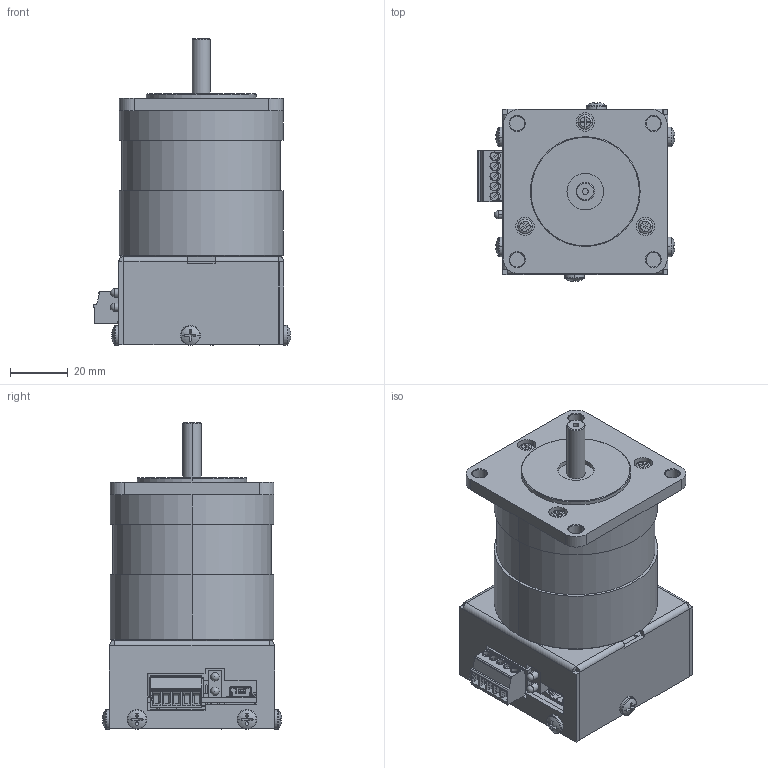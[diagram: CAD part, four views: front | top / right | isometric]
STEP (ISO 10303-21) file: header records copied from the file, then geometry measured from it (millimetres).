
FILE_DESCRIPTION (( 'STEP AP214' ), '1' );
FILE_NAME ('BLWS23MDCUSB2S-24V-4000.STEP', '2016-02-03T00:37:55', ( '' ), ( '' ), 'SwSTEP 2.0', 'SolidWorks 2016', '' );
FILE_SCHEMA (( 'AUTOMOTIVE_DESIGN' ));
Length unit declared in the file: inch
Products named in the file (21): LED-LTM Series_LED-LTM150; RES-3W-JAPSTYLE.25; CON-B5B-EH-A; CAP-0223; AA6550PCB; 55pan cross head_ai_CR-PHMS 0.138-32x0.25x0.25-S; Heat Sink, BLWS23MDCUSB Series; BLWR23MDAUSB Cover; 1840395; BLWS23-BLWR23 Series_BLWS23MDA2; 55pan cross head_ai_CR-PHMS 0.112-40x0.25x0.25-S; 55pan cross head_ai_CR-PHMS 0.112-40x0.3125x0.3125-S; BLWS23MDCUSB2S-24V-4000; TPE-661001001674-1.0X1.125; SUB-AA6550-1; CON-UX60SC-MB-5ST80; UX60SC-MB-5ST; LED-0008; 1844249; TRS-IRFU3607PBF with 90degree bent UP legs; LED-T-1-Series_LED-T-1-GRN
Assembly tree (32 placements, depth 4):
  BLWS23MDCUSB2S-24V-4000
    BLWS23-BLWR23 Series_BLWS23MDA2
    BLWR23MDAUSB Cover
    Heat Sink, BLWS23MDCUSB Series
    55pan cross head_ai_CR-PHMS 0.138-32x0.25x0.25-S  x6
    SUB-AA6550-1
      AA6550PCB
      CAP-0223
      CON-B5B-EH-A
      RES-3W-JAPSTYLE.25
      LED-LTM Series_LED-LTM150
      LED-T-1-Series_LED-T-1-GRN
      TRS-IRFU3607PBF with 90degree bent UP legs  x6
      1844249
      LED-0008
      CON-UX60SC-MB-5ST80
        UX60SC-MB-5ST
    TPE-661001001674-1.0X1.125
    55pan cross head_ai_CR-PHMS 0.112-40x0.3125x0.3125-S  x2
    55pan cross head_ai_CR-PHMS 0.112-40x0.25x0.25-S  x2
    1840395
Bounding box: 68.57 x 62.13 x 106.3 mm (x, y, z)
Volume: 182939.7 mm3; surface area: 60959.1 mm2
Topology: 30 solids, 30 shells, 3812 faces, 9987 edges, 6432 vertices
Faces by surface type: plane 2057, cylinder 850, cone 481, bspline 361, torus 40, sphere 23
Entity records: 145533 total; most frequent: CARTESIAN_POINT 36756, ORIENTED_EDGE 16058, DIRECTION 13860, EDGE_CURVE 8029, VECTOR 5388, LINE 5388, VERTEX_POINT 5208, AXIS2_PLACEMENT_3D 4236
